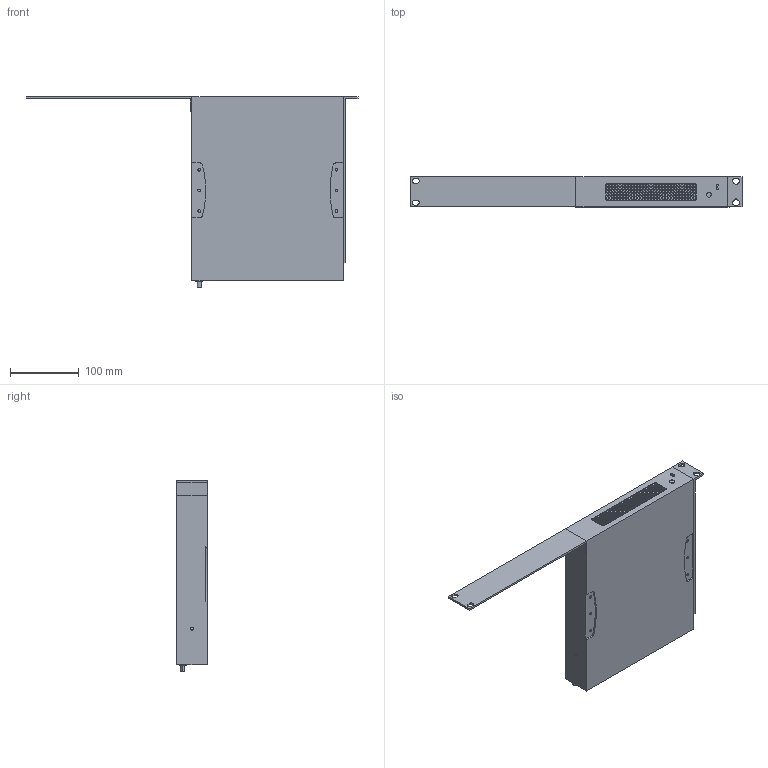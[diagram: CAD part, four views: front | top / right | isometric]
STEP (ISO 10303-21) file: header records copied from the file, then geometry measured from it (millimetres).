
FILE_DESCRIPTION (( 'STEP AP214' ), '1' );
FILE_NAME ('FG-901638-3D-A (SINGLE MOUNT RIGHT).STEP', '2025-12-18T23:49:31', ( '' ), ( '' ), 'SwSTEP 2.0', 'SolidWorks 2023', '' );
FILE_SCHEMA (( 'AUTOMOTIVE_DESIGN' ));
Length unit declared in the file: millimetre
Products named in the file (1): FG-901638-3D-A (SINGLE MOUNT RIGHT)
Bounding box: 481.9 x 43.6 x 277.84 mm (x, y, z)
Volume: 2606128.5 mm3; surface area: 212327.6 mm2
Topology: 3 solids, 3 shells, 1029 faces, 2358 edges, 1572 vertices
Faces by surface type: plane 669, cylinder 360
Entity records: 29161 total; most frequent: DIRECTION 5138, CARTESIAN_POINT 4960, ORIENTED_EDGE 4716, EDGE_CURVE 2358, AXIS2_PLACEMENT_3D 1750, VECTOR 1638, LINE 1638, VERTEX_POINT 1572
